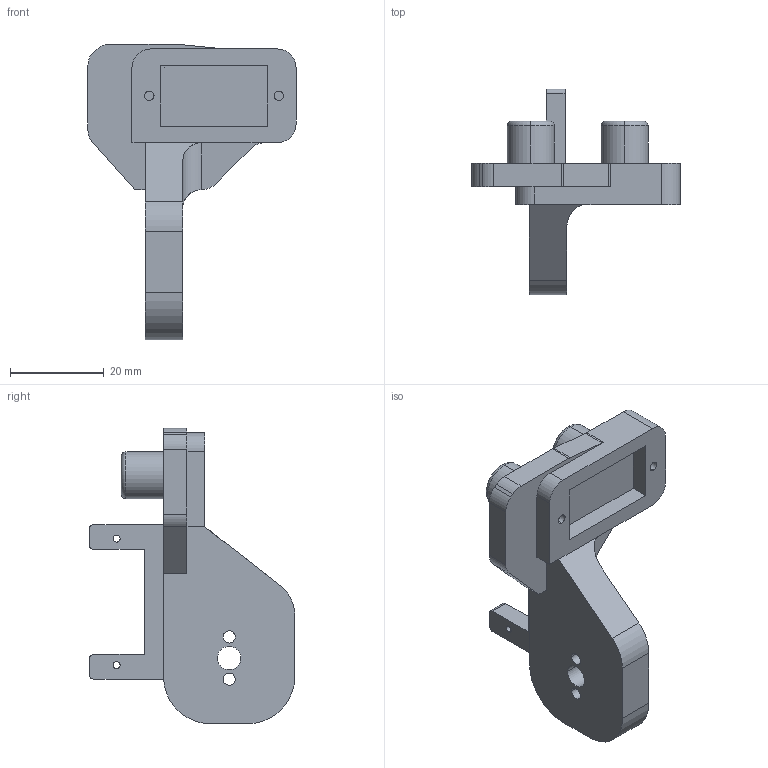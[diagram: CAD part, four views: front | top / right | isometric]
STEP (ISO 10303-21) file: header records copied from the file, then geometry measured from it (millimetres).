
FILE_DESCRIPTION (( 'STEP AP203' ), '1' );
FILE_NAME ('Gripper base_r1.STEP', '2021-09-16T07:10:58', ( '' ), ( '' ), 'SwSTEP 2.0', 'SolidWorks 2019', '' );
FILE_SCHEMA (( 'CONFIG_CONTROL_DESIGN' ));
Length unit declared in the file: millimetre
Products named in the file (1): Gripper base_r1
Bounding box: 44.4 x 43.85 x 63 mm (x, y, z)
Volume: 16968.9 mm3; surface area: 8066.7 mm2
Topology: 3 solids, 3 shells, 87 faces, 224 edges, 146 vertices
Faces by surface type: plane 43, cylinder 40, torus 4
Entity records: 2758 total; most frequent: DIRECTION 480, CARTESIAN_POINT 467, ORIENTED_EDGE 448, EDGE_CURVE 224, AXIS2_PLACEMENT_3D 171, VERTEX_POINT 146, VECTOR 138, LINE 138
